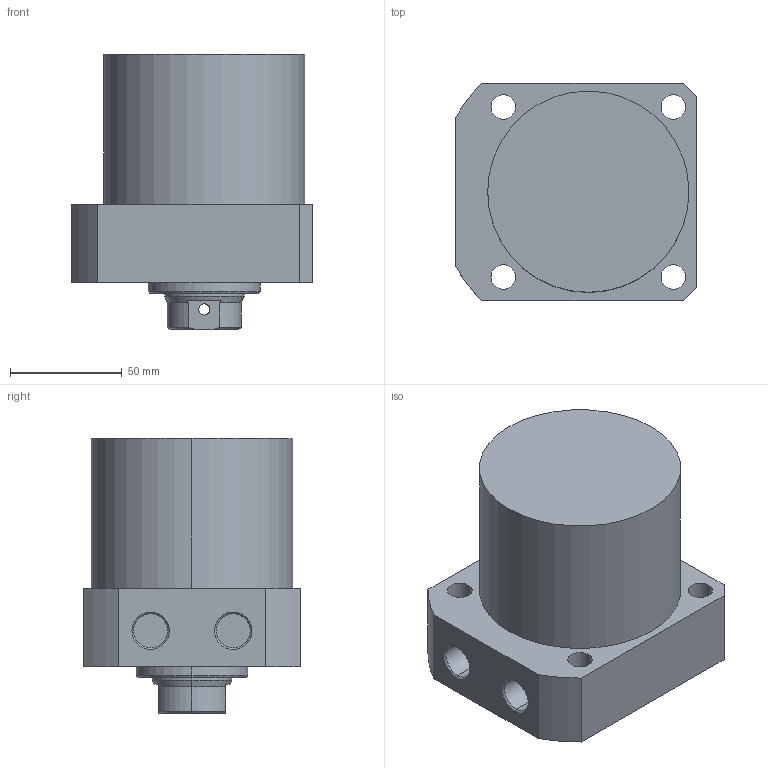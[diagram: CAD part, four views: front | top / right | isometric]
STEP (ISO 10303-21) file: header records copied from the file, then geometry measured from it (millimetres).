
FILE_DESCRIPTION (( 'STEP AP203' ), '1' );
FILE_NAME ('CLLR-090CB-045.STEP', '2019-12-19T02:31:04', ( '' ), ( '' ), 'SwSTEP 2.0', 'SolidWorks 2015', '' );
FILE_SCHEMA (( 'CONFIG_CONTROL_DESIGN' ));
Length unit declared in the file: millimetre
Products named in the file (1): CLLR-090CB-045
Bounding box: 108 x 97 x 123 mm (x, y, z)
Volume: 776249.7 mm3; surface area: 64129.5 mm2
Topology: 1 solids, 1 shells, 67 faces, 161 edges, 102 vertices
Faces by surface type: cylinder 33, plane 19, cone 15
Entity records: 2179 total; most frequent: CARTESIAN_POINT 477, DIRECTION 360, ORIENTED_EDGE 318, EDGE_CURVE 159, AXIS2_PLACEMENT_3D 145, VERTEX_POINT 102, EDGE_LOOP 87, CIRCLE 77
